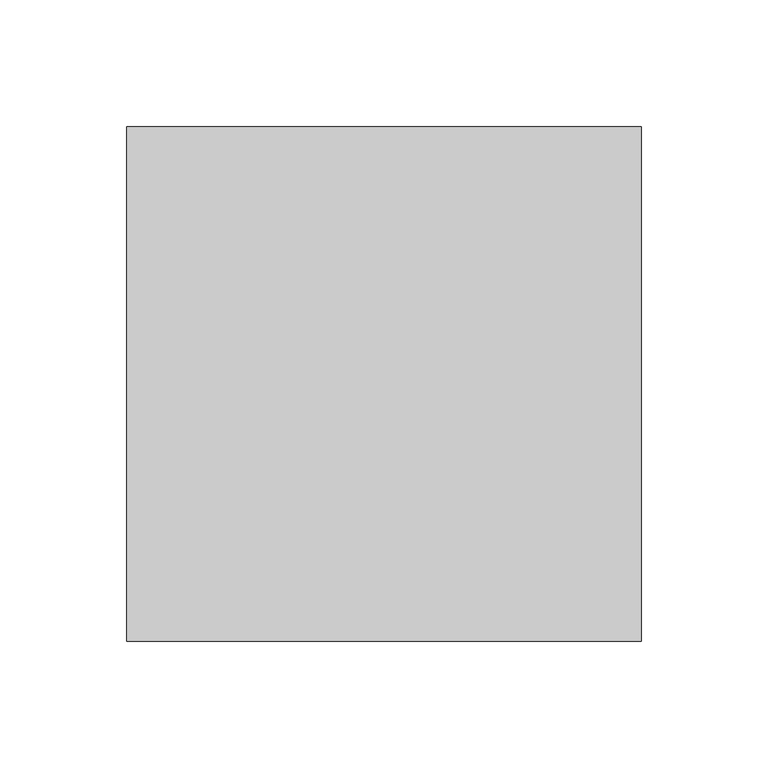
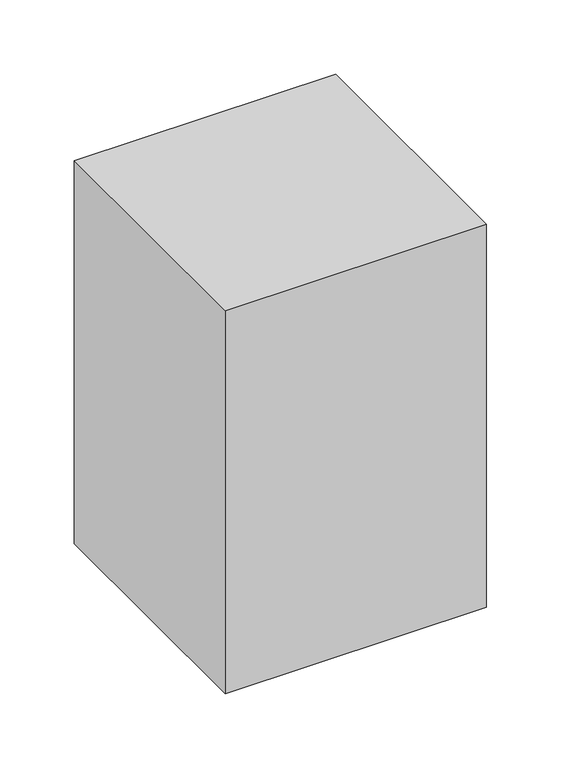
"""IFC4 building model written with IfcOpenShell, lengths in millimetres: proxy geometry, Placeholder_Polyseam : Placeholder_Polyseam."""

import ifcopenshell
import ifcopenshell.guid

model = None  # the IFC model being written
_history = None  # IfcOwnerHistory: only IFC2X3 demands one
_inside = {}  # id of a spatial element -> (the spatial element, [elements in it])
_under = {}  # id of a project, library or spatial element -> (it, [spatial elements below it])
_declared = {}  # id of a project -> (the project, [libraries it declares])
_typed = {}  # id of a type object -> (the type object, [elements of that type])
_made_of = {}  # id of a material, layer set ... -> (it, [elements and type objects made of it])


def new_model(schema):
    """Start an empty IFC model of exactly this schema.

    Asked for "IFC4X3", IfcOpenShell would pick the latest addendum, in which some entities
    have other attributes; the version numbers below select the first issue.
    IFC2X3 requires an IfcOwnerHistory on every rooted entity: one is made here for all.
    """
    global model, _history
    if schema == "IFC4X3":
        model = ifcopenshell.file(schema_version=(4, 3, 0, 0))
    else:
        model = ifcopenshell.file(schema=schema)
    _inside.clear()
    _under.clear()
    _declared.clear()
    _typed.clear()
    _made_of.clear()
    _history = None
    if model.schema == "IFC2X3":
        org = make("IfcOrganization", Name="unknown")
        user = make(
            "IfcPersonAndOrganization",
            ThePerson=make("IfcPerson", FamilyName="unknown"),
            TheOrganization=org,
        )
        app = make(
            "IfcApplication",
            ApplicationDeveloper=org,
            Version="unknown",
            ApplicationFullName="unknown",
            ApplicationIdentifier="unknown",
        )
        _history = make(
            "IfcOwnerHistory",
            OwningUser=user,
            OwningApplication=app,
            ChangeAction="ADDED",
            CreationDate=0,
        )
    return model


def make(cls, **values):
    """One entity of the class cls with the attributes given. An attribute that is None is left unset."""
    return model.create_entity(
        cls, **{name: value for name, value in values.items() if value is not None}
    )


def rooted(cls, **values):
    """An entity with a GlobalId (a new one), such as an element, a storey or a relation."""
    return make(cls, GlobalId=ifcopenshell.guid.new(), OwnerHistory=_history, **values)


def si_unit(unit_type, name, prefix=None):
    """IfcSIUnit, for example si_unit("LENGTHUNIT", "METRE", prefix="MILLI")."""
    return make("IfcSIUnit", UnitType=unit_type, Prefix=prefix, Name=name)


def assignment(units):
    """IfcUnitAssignment: the units of a project."""
    return None if units is None else make("IfcUnitAssignment", Units=units)


def point(xyz):
    """IfcCartesianPoint."""
    return None if xyz is None else make("IfcCartesianPoint", Coordinates=xyz)


def direction(xyz):
    """IfcDirection."""
    return None if xyz is None else make("IfcDirection", DirectionRatios=xyz)


def frame(location, z_axis=None, x_axis=None):
    """IfcAxis2Placement3D, a coordinate frame: its origin and axes. An axis left out is left unset."""
    return make(
        "IfcAxis2Placement3D",
        Location=point(location),
        Axis=direction(z_axis),
        RefDirection=direction(x_axis),
    )


def origin():
    """The frame at (0, 0, 0) with its axes left unset."""
    return frame((0.0, 0.0, 0.0))


def origin_with_axes():
    """The frame at (0, 0, 0) with the z axis (0, 0, 1) and the x axis (1, 0, 0) written out."""
    return frame((0.0, 0.0, 0.0), z_axis=(0.0, 0.0, 1.0), x_axis=(1.0, 0.0, 0.0))


def place(relative_to, where):
    """IfcLocalPlacement: puts the frame where relative to a parent placement (None: the world)."""
    return make(
        "IfcLocalPlacement", PlacementRelTo=relative_to, RelativePlacement=where
    )


def context(
    kind, dimensions, precision=None, world=None, true_north=None, identifier=None
):
    """IfcGeometricRepresentationContext, for example the 3D "Model" context."""
    return make(
        "IfcGeometricRepresentationContext",
        ContextIdentifier=identifier,
        ContextType=kind,
        CoordinateSpaceDimension=dimensions,
        Precision=precision,
        WorldCoordinateSystem=world,
        TrueNorth=true_north,
    )


def project(units=None, contexts=None):
    """IfcProject with its units and contexts."""
    return rooted(
        "IfcProject",
        Name="project",
        RepresentationContexts=contexts,
        UnitsInContext=assignment(units),
    )


def spatial(cls, under=None, at=None, **own):
    """A site, building, storey or space (cls), placed at a placement, below another one or the project."""
    s = rooted(cls, ObjectPlacement=at, **own)
    if under is not None:
        _under.setdefault(under.id(), (under, []))[1].append(s)
    return s


def polyline(points):
    """IfcPolyline through the points."""
    return make("IfcPolyline", Points=[point(p) for p in points])


def outline(outer, holes=None, kind="AREA"):
    """IfcArbitraryClosedProfileDef: a profile drawn as a closed curve; with holes, ...WithVoids."""
    if holes is None:
        return make("IfcArbitraryClosedProfileDef", ProfileType=kind, OuterCurve=outer)
    return make(
        "IfcArbitraryProfileDefWithVoids",
        ProfileType=kind,
        OuterCurve=outer,
        InnerCurves=holes,
    )


def extrude(swept, where, along, depth):
    """IfcExtrudedAreaSolid: the profile swept, set in the frame where, extruded along a direction by depth."""
    return make(
        "IfcExtrudedAreaSolid",
        SweptArea=swept,
        Position=where,
        ExtrudedDirection=direction(along),
        Depth=depth,
    )


def shape(context_of_items, identifier, shape_type, items):
    """IfcShapeRepresentation: the items that make up one representation, for example the "Body"."""
    return make(
        "IfcShapeRepresentation",
        ContextOfItems=context_of_items,
        RepresentationIdentifier=identifier,
        RepresentationType=shape_type,
        Items=items,
    )


def source(mapping_origin, context_of_items, identifier, shape_type, items):
    """IfcRepresentationMap: a shape defined once, which mapped items show again and again."""
    return make(
        "IfcRepresentationMap",
        MappingOrigin=mapping_origin,
        MappedRepresentation=shape(context_of_items, identifier, shape_type, items),
    )


def transform(
    local_origin,
    x_axis=None,
    y_axis=None,
    z_axis=None,
    scale=None,
    scale2=None,
    scale3=None,
    uniform=True,
):
    """IfcCartesianTransformationOperator3D, or its non-uniform kind. x_axis, y_axis, z_axis: its Axis1, 2, 3."""
    if uniform:
        return make(
            "IfcCartesianTransformationOperator3D",
            Axis1=direction(x_axis),
            Axis2=direction(y_axis),
            LocalOrigin=point(local_origin),
            Scale=scale,
            Axis3=direction(z_axis),
        )
    return make(
        "IfcCartesianTransformationOperator3DnonUniform",
        Axis1=direction(x_axis),
        Axis2=direction(y_axis),
        LocalOrigin=point(local_origin),
        Scale=scale,
        Axis3=direction(z_axis),
        Scale2=scale2,
        Scale3=scale3,
    )


def mapped(mapping_source, mapping_target):
    """IfcMappedItem: shows the shape of a source again, moved by a transform."""
    return make(
        "IfcMappedItem", MappingSource=mapping_source, MappingTarget=mapping_target
    )


def made_of(thing, what):
    """Note that an element or type object is made of a material, layer set ...; save() writes the relation."""
    if what is not None:
        _made_of.setdefault(what.id(), (what, []))[1].append(thing)
    return thing


def element(
    cls,
    number,
    at=None,
    inside=None,
    cuts=None,
    type_object=None,
    material=None,
    context=None,
    identifier="Body",
    shape_type=None,
    held_by="IfcProductDefinitionShape",
    body=None,
    shapes=None,
    **own,
):
    """One element of the class cls, such as IfcWall. Its Tag is "e" and its number.

    at: its placement. inside: the storey or other place that contains it. cuts: it is an
    opening in that element (IfcRelVoidsElement). A single representation is given by context,
    identifier, shape_type and body (its items); several are given by shapes. held_by: the class
    of the entity that holds the representations. save() writes the other relations.
    """
    e = rooted(cls, Tag="e%d" % number, ObjectPlacement=at, **own)
    if body is not None:
        shapes = [shape(context, identifier, shape_type, body)]
    if shapes is not None:
        e.Representation = make(held_by, Representations=shapes)
    if inside is not None:
        _inside.setdefault(inside.id(), (inside, []))[1].append(e)
    if cuts is not None:
        rooted(
            "IfcRelVoidsElement", RelatingBuildingElement=cuts, RelatedOpeningElement=e
        )
    if type_object is not None:
        _typed.setdefault(type_object.id(), (type_object, []))[1].append(e)
    return made_of(e, material)


def aggregate(whole, parts):
    """IfcRelAggregates: a whole, such as a stair, and the parts it consists of."""
    return rooted("IfcRelAggregates", RelatingObject=whole, RelatedObjects=parts)


def save(model, path):
    """Write the relations noted so far, then the file.

    IfcRelAggregates (storeys below a building ...), IfcRelContainedInSpatialStructure (elements
    in a storey), IfcRelDefinesByType, IfcRelAssociatesMaterial and IfcRelDeclares: one each for
    every whole, place, type object, material and project.
    """
    for whole, parts in _under.values():
        aggregate(whole, parts)
    for where, things in _inside.values():
        rooted(
            "IfcRelContainedInSpatialStructure",
            RelatedElements=things,
            RelatingStructure=where,
        )
    for kind, things in _typed.values():
        rooted("IfcRelDefinesByType", RelatedObjects=things, RelatingType=kind)
    for what, things in _made_of.values():
        rooted("IfcRelAssociatesMaterial", RelatedObjects=things, RelatingMaterial=what)
    for by, libraries in _declared.values():
        rooted("IfcRelDeclares", RelatingContext=by, RelatedDefinitions=libraries)
    model.write(path)


def generic_models_5e35d0ab(model_context):
    return source(origin(), model_context, "Body", "SweptSolid", [
        extrude(outline(polyline([(-101.6, 101.6), (101.6, 101.6), (101.6, -101.6), (-101.6, -101.6), (-101.6, 101.6)])), origin_with_axes(), (0.0, 0.0, 1.0), 315.0),
    ])


if __name__ == "__main__":
    model = new_model("IFC4")
    model_context = context("Model", 3, world=origin())
    ifc_project = project(units=[si_unit("LENGTHUNIT", "METRE", prefix="MILLI")], contexts=[model_context])
    site = spatial("IfcSite", under=ifc_project)
    building = spatial("IfcBuilding", under=site)
    placement = place(None, origin())
    generic_models_shape = generic_models_5e35d0ab(model_context)
    element("IfcBuildingElementProxy", 1, Name="Placeholder_Polyseam : Placeholder_Polyseam", ObjectType="Placeholder_Polyseam : Placeholder_Polyseam", at=placement, inside=building, context=model_context, shape_type="MappedRepresentation", body=[
        mapped(generic_models_shape, transform((0.0, 0.0, 0.0), x_axis=(1.0, 0.0, 0.0), y_axis=(0.0, 1.0, 0.0), z_axis=(0.0, 0.0, 1.0))),
    ])
    save(model, "model.ifc")
